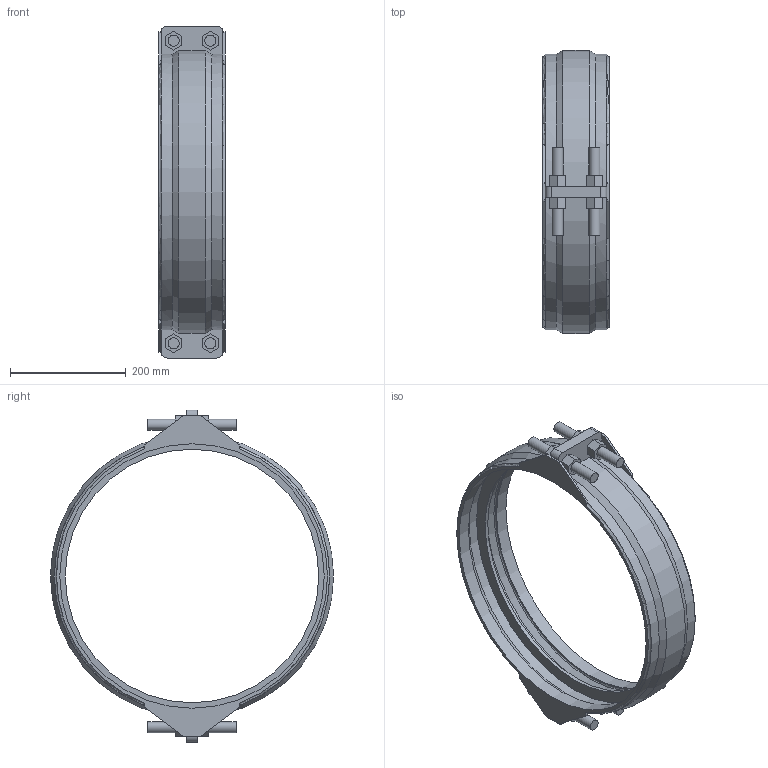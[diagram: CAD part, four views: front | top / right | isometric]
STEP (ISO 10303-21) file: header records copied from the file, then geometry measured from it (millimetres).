
FILE_DESCRIPTION(/* description */ ('VIC SS RESTRAINED COUPLING STYLE 234S (FLEX) (BRS)','CAx-IF Rec.Pracs.---Representation and Presentation of Product Manufacturing Information (PMI)---4.0---2014-10-13'),/* implementation_level */ '2;1');
FILE_NAME(/* name */ 'C:\Users\kkamble\AppData\Roaming\Autodesk\ApplicationPlugins\Back Up\Victaulic_VBSP_Coupling Flexible Restrained_Style 234S (BRS)\Victaulic_VBSP_Coupling Flexible Restrained_Style 234S (BRS)_200psi_18 (450).stp',/* time_stamp */ '2020-09-22T18:40:57+05:00',/* author */ ('Vjadhav'),/* organization */ ('Victaulic'),/* preprocessor_version */ 'ST-DEVELOPER v17.2',/* originating_system */ 'Autodesk Inventor 2019',/* authorisation */ '');
FILE_SCHEMA (('AP242_MANAGED_MODEL_BASED_3D_ENGINEERING_MIM_LF { 1 0 10303 442 1 1 4 }'));
Length unit declared in the file: inch
Products named in the file (1): Style_234S_Type_2_200psi-18.0
Bounding box: 114.3 x 489.45 x 574.04 mm (x, y, z)
Volume: 1782779.9 mm3; surface area: 532325.1 mm2
Topology: 1 solids, 1 shells, 155 faces, 393 edges, 260 vertices
Faces by surface type: plane 104, cylinder 39, torus 6, cone 6
Full cylindrical faces by diameter (mm): 19.05 x8, 438.15 x1, 457.2 x2, 479.923 x2
Entity records: 5090 total; most frequent: CARTESIAN_POINT 978, DIRECTION 825, ORIENTED_EDGE 786, EDGE_CURVE 393, AXIS2_PLACEMENT_3D 279, LINE 267, VECTOR 267, VERTEX_POINT 260
